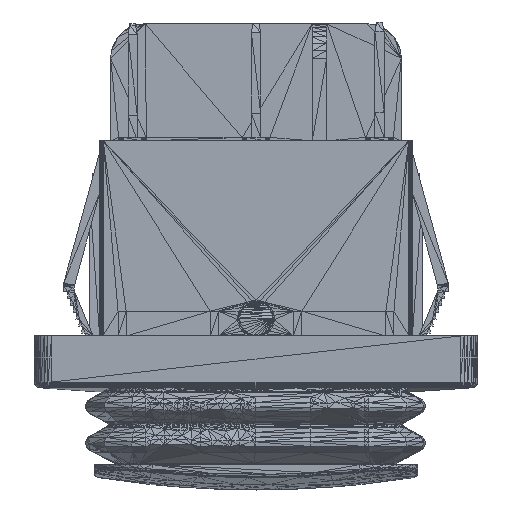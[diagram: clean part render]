
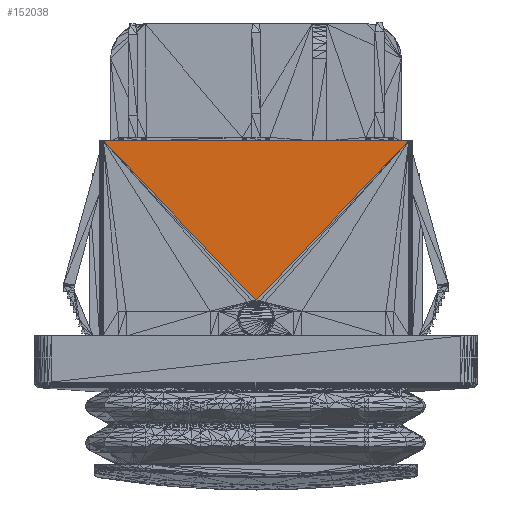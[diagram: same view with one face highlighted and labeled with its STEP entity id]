
A CAD part, front view. The second image highlights one B-rep face of the part: STEP entity #152038.
In plain terms, the highlighted planar face has unit normal (0, -1, 0) as drawn and (0, 1, 0) by its records, which use the part's own axes.
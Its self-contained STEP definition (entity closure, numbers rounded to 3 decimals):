
#151094 = VERTEX_POINT('',#151095);
#151095 = CARTESIAN_POINT('',(0.,-10.8,
    5.6));
#151860 = VERTEX_POINT('',#151861);
#151861 = CARTESIAN_POINT('',(13.25,-10.8,
    19.4));
#151883 = EDGE_CURVE('',#151860,#151094,#151884,.T.);
#151884 = LINE('',#151885,#151886);
#151885 = CARTESIAN_POINT('',(13.25,-10.8,
    19.4));
#151886 = VECTOR('',#151887,1.);
#151887 = DIRECTION('',(-0.693,0.,
    -0.721));
#152038 = ADVANCED_FACE('',(#152039),#152056,.F.);
#152039 = FACE_BOUND('',#152040,.F.);
#152040 = EDGE_LOOP('',(#152041,#152042,#152050));
#152041 = ORIENTED_EDGE('',*,*,#151883,.F.);
#152042 = ORIENTED_EDGE('',*,*,#152043,.T.);
#152043 = EDGE_CURVE('',#151860,#152044,#152046,.T.);
#152044 = VERTEX_POINT('',#152045);
#152045 = CARTESIAN_POINT('',(-13.25,-10.8,
    19.4));
#152046 = LINE('',#152047,#152048);
#152047 = CARTESIAN_POINT('',(13.25,-10.8,
    19.4));
#152048 = VECTOR('',#152049,1.);
#152049 = DIRECTION('',(-1.,0.,0.));
#152050 = ORIENTED_EDGE('',*,*,#152051,.F.);
#152051 = EDGE_CURVE('',#151094,#152044,#152052,.T.);
#152052 = LINE('',#152053,#152054);
#152053 = CARTESIAN_POINT('',(0.,-10.8,
    5.6));
#152054 = VECTOR('',#152055,1.);
#152055 = DIRECTION('',(-0.693,0.,0.721));
#152056 = PLANE('',#152057);
#152057 = AXIS2_PLACEMENT_3D('',#152058,#152059,#152060);
#152058 = CARTESIAN_POINT('',(0.,-10.8,
    15.323));
#152059 = DIRECTION('',(0.,-1.,0.));
#152060 = DIRECTION('',(-1.,0.,0.));
